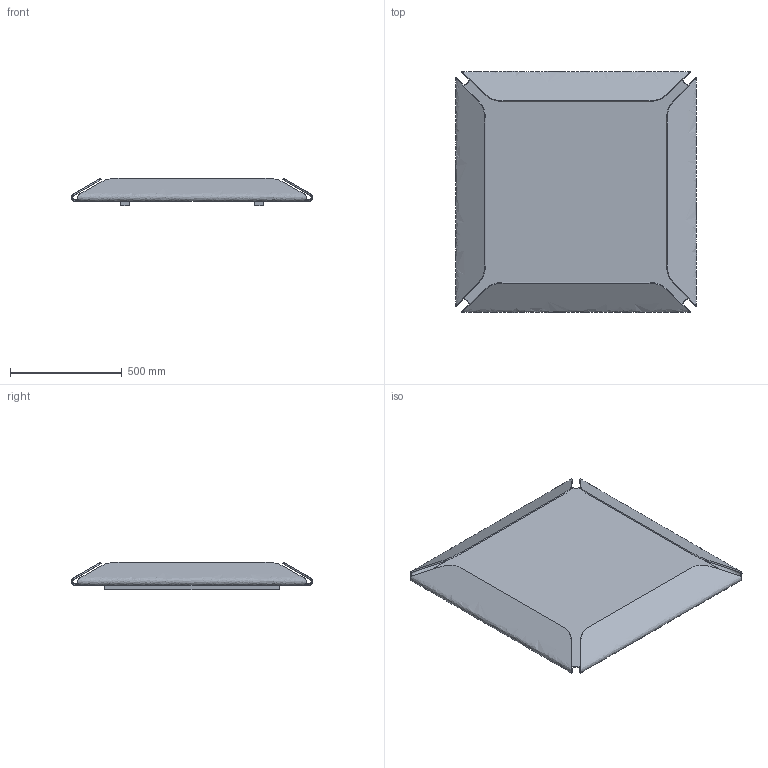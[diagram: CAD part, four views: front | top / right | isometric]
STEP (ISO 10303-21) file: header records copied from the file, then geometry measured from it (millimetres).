
FILE_DESCRIPTION(/* description */ (''),/* implementation_level */ '2;1');
FILE_NAME(/* name */ '361 - Gallery Square 108x108',/* time_stamp */ '2010-11-02T14:42:07+01:00',/* author */ (''),/* organization */ (''),/* preprocessor_version */ 'ST-DEVELOPER v10',/* originating_system */ '',/* authorisation */ '');
FILE_SCHEMA (('CONFIG_CONTROL_DESIGN'));
Length unit declared in the file: centimetre
Products named in the file (1): 1
Bounding box: 1080 x 1080 x 124.6 mm (x, y, z)
Volume: 12713198.8 mm3; surface area: 4353370.2 mm2
Topology: 7 solids, 7 shells, 88 faces, 222 edges, 148 vertices
Faces by surface type: bspline 74, plane 14
Entity records: 3394 total; most frequent: CARTESIAN_POINT 1936, ORIENTED_EDGE 444, EDGE_CURVE 222, B_SPLINE_CURVE_WITH_KNOTS 170, VERTEX_POINT 148, EDGE_LOOP 96, ADVANCED_FACE 88, FACE_OUTER_BOUND 88
